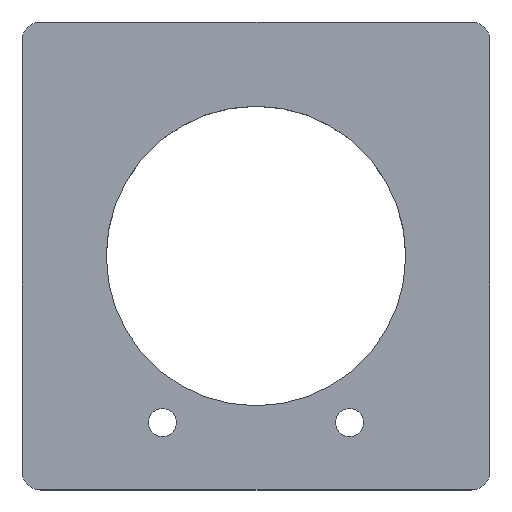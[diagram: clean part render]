
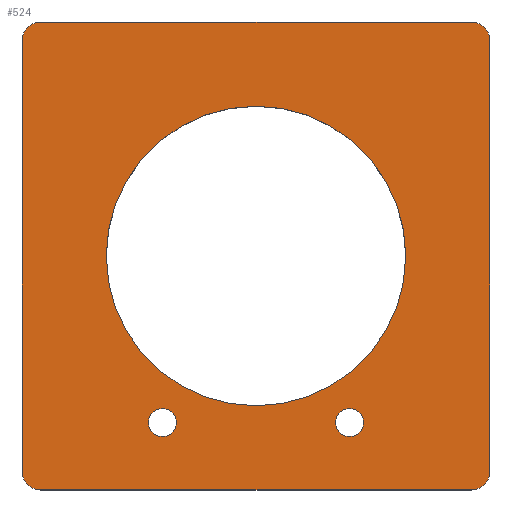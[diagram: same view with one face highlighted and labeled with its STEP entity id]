
A CAD part, top view. The second image highlights one B-rep face of the part: STEP entity #524.
In plain terms, the highlighted planar face has unit normal (0, 0, 1).
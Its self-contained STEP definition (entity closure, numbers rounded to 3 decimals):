
#23=FACE_BOUND('',#94,.T.);
#24=FACE_BOUND('',#95,.T.);
#25=FACE_BOUND('',#96,.T.);
#37=PLANE('',#606);
#61=FACE_OUTER_BOUND('',#93,.T.);
#93=EDGE_LOOP('',(#456,#457,#458,#459,#460,#461,#462,#463));
#94=EDGE_LOOP('',(#464));
#95=EDGE_LOOP('',(#465));
#96=EDGE_LOOP('',(#466));
#128=LINE('',#893,#169);
#131=LINE('',#901,#172);
#134=LINE('',#909,#175);
#137=LINE('',#917,#178);
#169=VECTOR('',#726,10.);
#172=VECTOR('',#735,10.);
#175=VECTOR('',#744,10.);
#178=VECTOR('',#753,10.);
#204=CIRCLE('',#582,16.);
#206=CIRCLE('',#585,1.5);
#207=CIRCLE('',#587,1.5);
#212=CIRCLE('',#596,2.);
#213=CIRCLE('',#599,2.);
#214=CIRCLE('',#602,2.);
#215=CIRCLE('',#605,2.);
#251=VERTEX_POINT('',#858);
#253=VERTEX_POINT('',#864);
#254=VERTEX_POINT('',#868);
#262=VERTEX_POINT('',#890);
#263=VERTEX_POINT('',#892);
#264=VERTEX_POINT('',#896);
#265=VERTEX_POINT('',#900);
#266=VERTEX_POINT('',#904);
#267=VERTEX_POINT('',#908);
#268=VERTEX_POINT('',#912);
#269=VERTEX_POINT('',#916);
#307=EDGE_CURVE('',#251,#251,#204,.T.);
#310=EDGE_CURVE('',#253,#253,#206,.T.);
#312=EDGE_CURVE('',#254,#254,#207,.T.);
#324=EDGE_CURVE('',#263,#262,#128,.T.);
#326=EDGE_CURVE('',#264,#263,#212,.T.);
#328=EDGE_CURVE('',#265,#264,#131,.T.);
#330=EDGE_CURVE('',#266,#265,#213,.T.);
#332=EDGE_CURVE('',#267,#266,#134,.T.);
#334=EDGE_CURVE('',#268,#267,#214,.T.);
#336=EDGE_CURVE('',#269,#268,#137,.T.);
#338=EDGE_CURVE('',#262,#269,#215,.T.);
#456=ORIENTED_EDGE('',*,*,#338,.T.);
#457=ORIENTED_EDGE('',*,*,#336,.T.);
#458=ORIENTED_EDGE('',*,*,#334,.T.);
#459=ORIENTED_EDGE('',*,*,#332,.T.);
#460=ORIENTED_EDGE('',*,*,#330,.T.);
#461=ORIENTED_EDGE('',*,*,#328,.T.);
#462=ORIENTED_EDGE('',*,*,#326,.T.);
#463=ORIENTED_EDGE('',*,*,#324,.T.);
#464=ORIENTED_EDGE('',*,*,#307,.T.);
#465=ORIENTED_EDGE('',*,*,#310,.T.);
#466=ORIENTED_EDGE('',*,*,#312,.T.);
#524=ADVANCED_FACE('',(#61,#23,#24,#25),#37,.T.);
#582=AXIS2_PLACEMENT_3D('',#859,#691,#692);
#585=AXIS2_PLACEMENT_3D('',#865,#698,#699);
#587=AXIS2_PLACEMENT_3D('',#869,#703,#704);
#596=AXIS2_PLACEMENT_3D('',#897,#730,#731);
#599=AXIS2_PLACEMENT_3D('',#905,#739,#740);
#602=AXIS2_PLACEMENT_3D('',#913,#748,#749);
#605=AXIS2_PLACEMENT_3D('',#920,#757,#758);
#606=AXIS2_PLACEMENT_3D('',#921,#759,#760);
#691=DIRECTION('center_axis',(0.,0.,
-1.));
#692=DIRECTION('ref_axis',(1.,0.,0.));
#698=DIRECTION('center_axis',(0.,0.,
-1.));
#699=DIRECTION('ref_axis',(1.,0.,0.));
#703=DIRECTION('center_axis',(0.,0.,
-1.));
#704=DIRECTION('ref_axis',(1.,0.,0.));
#726=DIRECTION('',(-1.,0.,0.));
#730=DIRECTION('center_axis',(0.,0.,
1.));
#731=DIRECTION('ref_axis',(1.,0.,0.));
#735=DIRECTION('',(0.,1.,0.));
#739=DIRECTION('center_axis',(0.,0.,
1.));
#740=DIRECTION('ref_axis',(0.,-1.,0.));
#744=DIRECTION('',(1.,0.,0.));
#748=DIRECTION('center_axis',(0.,0.,
1.));
#749=DIRECTION('ref_axis',(-1.,0.,0.));
#753=DIRECTION('',(0.,-1.,0.));
#757=DIRECTION('center_axis',(0.,0.,
1.));
#758=DIRECTION('ref_axis',(0.,1.,0.));
#759=DIRECTION('center_axis',(0.,0.,
1.));
#760=DIRECTION('ref_axis',(1.,0.,0.));
#858=CARTESIAN_POINT('',(-42.08,71.041,-19.01));
#859=CARTESIAN_POINT('Origin',(-26.08,71.041,-19.01));
#864=CARTESIAN_POINT('',(-17.58,53.241,-19.01));
#865=CARTESIAN_POINT('Origin',(-16.08,53.241,-19.01));
#868=CARTESIAN_POINT('',(-37.58,53.241,-19.01));
#869=CARTESIAN_POINT('Origin',(-36.08,53.241,-19.01));
#890=CARTESIAN_POINT('',(-49.08,96.041,-19.01));
#892=CARTESIAN_POINT('',(-3.08,96.041,-19.01));
#893=CARTESIAN_POINT('',(-3.08,96.041,-19.01));
#896=CARTESIAN_POINT('',(-1.08,94.041,-19.01));
#897=CARTESIAN_POINT('Origin',(-3.08,94.041,-19.01));
#900=CARTESIAN_POINT('',(-1.08,48.041,-19.01));
#901=CARTESIAN_POINT('',(-1.08,48.041,-19.01));
#904=CARTESIAN_POINT('',(-3.08,46.041,-19.01));
#905=CARTESIAN_POINT('Origin',(-3.08,48.041,-19.01));
#908=CARTESIAN_POINT('',(-49.08,46.041,-19.01));
#909=CARTESIAN_POINT('',(-49.08,46.041,-19.01));
#912=CARTESIAN_POINT('',(-51.08,48.041,-19.01));
#913=CARTESIAN_POINT('Origin',(-49.08,48.041,-19.01));
#916=CARTESIAN_POINT('',(-51.08,94.041,-19.01));
#917=CARTESIAN_POINT('',(-51.08,94.041,-19.01));
#920=CARTESIAN_POINT('Origin',(-49.08,94.041,-19.01));
#921=CARTESIAN_POINT('Origin',(-26.08,71.041,-19.01));
